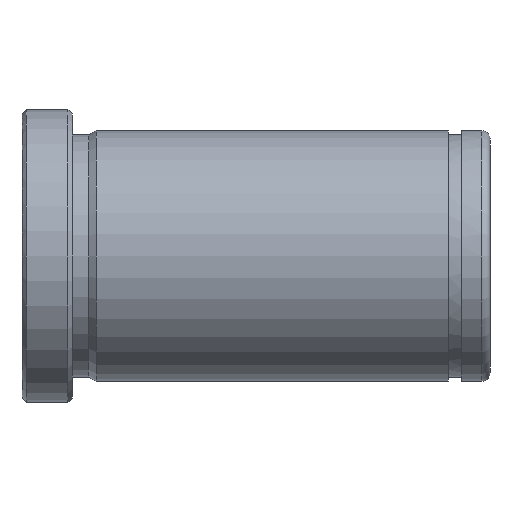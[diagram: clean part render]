
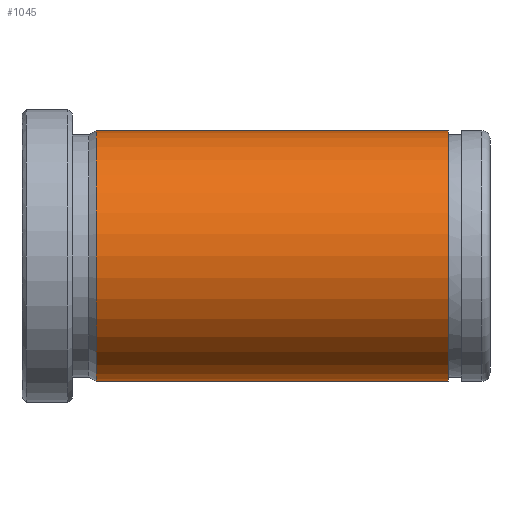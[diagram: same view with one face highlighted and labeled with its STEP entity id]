
A CAD part, front view. The second image highlights one B-rep face of the part: STEP entity #1045.
In plain terms, the highlighted cylindrical face has radius 15 mm (diameter 30 mm), a partial arc.
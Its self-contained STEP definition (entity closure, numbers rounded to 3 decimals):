
#851=CARTESIAN_POINT('Vertex',(8.866,0.,-15.)) ;
#858=CARTESIAN_POINT('Vertex',(8.866,0.,15.)) ;
#887=CARTESIAN_POINT('Axis2P3D Location',(8.866,0.,0.)) ;
#891=CARTESIAN_POINT('Vertex',(8.866,-15.,0.)) ;
#894=CARTESIAN_POINT('Axis2P3D Location',(8.866,0.,0.)) ;
#985=CARTESIAN_POINT('Line Origine',(112.,0.,15.)) ;
#989=CARTESIAN_POINT('Vertex',(51.,0.,15.)) ;
#1003=CARTESIAN_POINT('Vertex',(51.,0.,-15.)) ;
#1006=CARTESIAN_POINT('Line Origine',(112.,0.,-15.)) ;
#1020=CARTESIAN_POINT('Axis2P3D Location',(112.,0.,0.)) ;
#1025=CARTESIAN_POINT('Axis2P3D Location',(51.,0.,0.)) ;
#1029=CARTESIAN_POINT('Vertex',(51.,-15.,0.)) ;
#1032=CARTESIAN_POINT('Axis2P3D Location',(51.,0.,0.)) ;
#888=DIRECTION('Axis2P3D Direction',(1.,0.,-0.)) ;
#895=DIRECTION('Axis2P3D Direction',(1.,0.,-0.)) ;
#986=DIRECTION('Vector Direction',(-1.,0.,0.)) ;
#1007=DIRECTION('Vector Direction',(-1.,0.,0.)) ;
#1021=DIRECTION('Axis2P3D Direction',(-1.,-0.,-0.)) ;
#1022=DIRECTION('Axis2P3D XDirection',(0.,0.,-1.)) ;
#1026=DIRECTION('Axis2P3D Direction',(-1.,-0.,-0.)) ;
#1033=DIRECTION('Axis2P3D Direction',(-1.,-0.,-0.)) ;
#889=AXIS2_PLACEMENT_3D('Circle Axis2P3D',#887,#888,$) ;
#896=AXIS2_PLACEMENT_3D('Circle Axis2P3D',#894,#895,$) ;
#1023=AXIS2_PLACEMENT_3D('Cylinder Axis2P3D',#1020,#1021,#1022) ;
#1027=AXIS2_PLACEMENT_3D('Circle Axis2P3D',#1025,#1026,$) ;
#1034=AXIS2_PLACEMENT_3D('Circle Axis2P3D',#1032,#1033,$) ;
#1038=ORIENTED_EDGE('',*,*,#1010,.T.) ;
#1039=ORIENTED_EDGE('',*,*,#1031,.F.) ;
#1040=ORIENTED_EDGE('',*,*,#1036,.F.) ;
#1041=ORIENTED_EDGE('',*,*,#991,.T.) ;
#1042=ORIENTED_EDGE('',*,*,#898,.T.) ;
#1043=ORIENTED_EDGE('',*,*,#893,.T.) ;
#987=VECTOR('Line Direction',#986,1.) ;
#1008=VECTOR('Line Direction',#1007,1.) ;
#1045=ADVANCED_FACE('553-22X56',(#1044),#1024,.T.) ;
#890=CIRCLE('generated circle',#889,15.) ;
#897=CIRCLE('generated circle',#896,15.) ;
#1028=CIRCLE('generated circle',#1027,15.) ;
#1035=CIRCLE('generated circle',#1034,15.) ;
#1024=CYLINDRICAL_SURFACE('generated cylinder',#1023,15.) ;
#893=EDGE_CURVE('',#892,#852,#890,.T.) ;
#898=EDGE_CURVE('',#859,#892,#897,.T.) ;
#991=EDGE_CURVE('',#990,#859,#988,.T.) ;
#1010=EDGE_CURVE('',#852,#1004,#1009,.F.) ;
#1031=EDGE_CURVE('',#1030,#1004,#1028,.F.) ;
#1036=EDGE_CURVE('',#990,#1030,#1035,.F.) ;
#1037=EDGE_LOOP('',(#1038,#1039,#1040,#1041,#1042,#1043)) ;
#1044=FACE_OUTER_BOUND('',#1037,.T.) ;
#988=LINE('Line',#985,#987) ;
#1009=LINE('Line',#1006,#1008) ;
#852=VERTEX_POINT('',#851) ;
#859=VERTEX_POINT('',#858) ;
#892=VERTEX_POINT('',#891) ;
#990=VERTEX_POINT('',#989) ;
#1004=VERTEX_POINT('',#1003) ;
#1030=VERTEX_POINT('',#1029) ;
